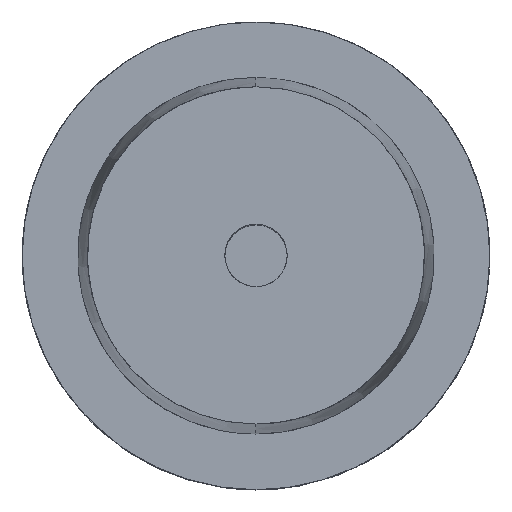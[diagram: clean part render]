
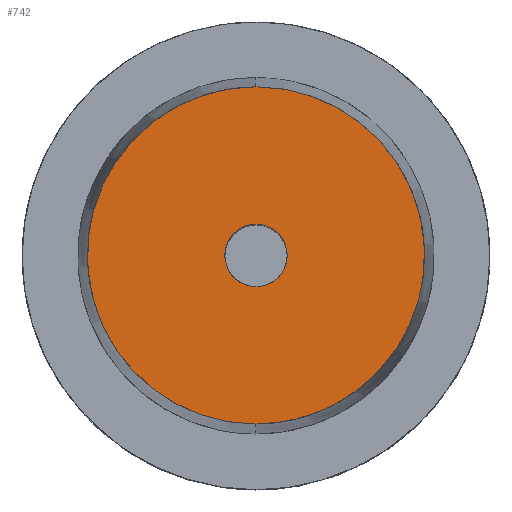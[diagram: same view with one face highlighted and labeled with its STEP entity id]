
A CAD part, top view. The second image highlights one B-rep face of the part: STEP entity #742.
In plain terms, the highlighted planar face has unit normal (0, 0, -1).
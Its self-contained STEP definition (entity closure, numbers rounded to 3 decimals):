
#742 = ADVANCED_FACE('',(#743,#790),#759,.T.);
#743 = FACE_BOUND('',#744,.T.);
#744 = EDGE_LOOP('',(#745,#772));
#745 = ORIENTED_EDGE('',*,*,#746,.T.);
#746 = EDGE_CURVE('',#747,#749,#751,.T.);
#747 = VERTEX_POINT('',#748);
#748 = CARTESIAN_POINT('',(0.,22.717,32.));
#749 = VERTEX_POINT('',#750);
#750 = CARTESIAN_POINT('',(0.,-22.717,32.));
#751 = SURFACE_CURVE('',#752,(#758),.PCURVE_S1.);
#752 = ( BOUNDED_CURVE() B_SPLINE_CURVE(2,(#753,#754,#755,#756,#757),
.UNSPECIFIED.,.F.,.F.) B_SPLINE_CURVE_WITH_KNOTS((3,2,3),(0.,0.5,1.),
.PIECEWISE_BEZIER_KNOTS.) CURVE() GEOMETRIC_REPRESENTATION_ITEM() 
RATIONAL_B_SPLINE_CURVE((1.,0.707,1.,0.707,1.)) 
REPRESENTATION_ITEM('') );
#753 = CARTESIAN_POINT('',(0.,22.717,32.));
#754 = CARTESIAN_POINT('',(22.717,22.717,32.));
#755 = CARTESIAN_POINT('',(22.717,0.,32.));
#756 = CARTESIAN_POINT('',(22.717,-22.717,32.));
#757 = CARTESIAN_POINT('',(0.,-22.717,32.));
#758 = PCURVE('',#759,#764);
#759 = PLANE('',#760);
#760 = AXIS2_PLACEMENT_3D('',#761,#762,#763);
#761 = CARTESIAN_POINT('',(0.,0.,32.));
#762 = DIRECTION('',(0.,0.,-1.));
#763 = DIRECTION('',(0.,1.,0.));
#764 = DEFINITIONAL_REPRESENTATION('',(#765),#771);
#765 = ( BOUNDED_CURVE() B_SPLINE_CURVE(2,(#766,#767,#768,#769,#770),
.UNSPECIFIED.,.F.,.F.) B_SPLINE_CURVE_WITH_KNOTS((3,2,3),(0.,0.5,1.),
.PIECEWISE_BEZIER_KNOTS.) CURVE() GEOMETRIC_REPRESENTATION_ITEM() 
RATIONAL_B_SPLINE_CURVE((1.,0.707,1.,0.707,1.)) 
REPRESENTATION_ITEM('') );
#766 = CARTESIAN_POINT('',(22.717,0.));
#767 = CARTESIAN_POINT('',(22.717,22.717));
#768 = CARTESIAN_POINT('',(0.,22.717));
#769 = CARTESIAN_POINT('',(-22.717,22.717));
#770 = CARTESIAN_POINT('',(-22.717,0.));
#771 = ( GEOMETRIC_REPRESENTATION_CONTEXT(2) 
PARAMETRIC_REPRESENTATION_CONTEXT() REPRESENTATION_CONTEXT('2D SPACE',''
  ) );
#772 = ORIENTED_EDGE('',*,*,#773,.T.);
#773 = EDGE_CURVE('',#749,#747,#774,.T.);
#774 = SURFACE_CURVE('',#775,(#781),.PCURVE_S1.);
#775 = ( BOUNDED_CURVE() B_SPLINE_CURVE(2,(#776,#777,#778,#779,#780),
.UNSPECIFIED.,.F.,.F.) B_SPLINE_CURVE_WITH_KNOTS((3,2,3),(0.,0.5,1.),
.PIECEWISE_BEZIER_KNOTS.) CURVE() GEOMETRIC_REPRESENTATION_ITEM() 
RATIONAL_B_SPLINE_CURVE((1.,0.707,1.,0.707,1.)) 
REPRESENTATION_ITEM('') );
#776 = CARTESIAN_POINT('',(0.,-22.717,32.));
#777 = CARTESIAN_POINT('',(-22.717,-22.717,32.));
#778 = CARTESIAN_POINT('',(-22.717,0.,32.));
#779 = CARTESIAN_POINT('',(-22.717,22.717,32.));
#780 = CARTESIAN_POINT('',(0.,22.717,32.));
#781 = PCURVE('',#759,#782);
#782 = DEFINITIONAL_REPRESENTATION('',(#783),#789);
#783 = ( BOUNDED_CURVE() B_SPLINE_CURVE(2,(#784,#785,#786,#787,#788),
.UNSPECIFIED.,.F.,.F.) B_SPLINE_CURVE_WITH_KNOTS((3,2,3),(0.,0.5,1.),
.PIECEWISE_BEZIER_KNOTS.) CURVE() GEOMETRIC_REPRESENTATION_ITEM() 
RATIONAL_B_SPLINE_CURVE((1.,0.707,1.,0.707,1.)) 
REPRESENTATION_ITEM('') );
#784 = CARTESIAN_POINT('',(-22.717,0.));
#785 = CARTESIAN_POINT('',(-22.717,-22.717));
#786 = CARTESIAN_POINT('',(0.,-22.717));
#787 = CARTESIAN_POINT('',(22.717,-22.717));
#788 = CARTESIAN_POINT('',(22.717,0.));
#789 = ( GEOMETRIC_REPRESENTATION_CONTEXT(2) 
PARAMETRIC_REPRESENTATION_CONTEXT() REPRESENTATION_CONTEXT('2D SPACE',''
  ) );
#790 = FACE_BOUND('',#791,.T.);
#791 = EDGE_LOOP('',(#792,#814));
#792 = ORIENTED_EDGE('',*,*,#793,.T.);
#793 = EDGE_CURVE('',#794,#796,#798,.T.);
#794 = VERTEX_POINT('',#795);
#795 = CARTESIAN_POINT('',(0.,4.2,32.));
#796 = VERTEX_POINT('',#797);
#797 = CARTESIAN_POINT('',(0.,-4.2,32.));
#798 = SURFACE_CURVE('',#799,(#805),.PCURVE_S1.);
#799 = ( BOUNDED_CURVE() B_SPLINE_CURVE(2,(#800,#801,#802,#803,#804),
.UNSPECIFIED.,.F.,.F.) B_SPLINE_CURVE_WITH_KNOTS((3,2,3),(0.,0.5,1.),
.PIECEWISE_BEZIER_KNOTS.) CURVE() GEOMETRIC_REPRESENTATION_ITEM() 
RATIONAL_B_SPLINE_CURVE((1.,0.707,1.,0.707,1.)) 
REPRESENTATION_ITEM('') );
#800 = CARTESIAN_POINT('',(0.,4.2,32.));
#801 = CARTESIAN_POINT('',(-4.2,4.2,32.));
#802 = CARTESIAN_POINT('',(-4.2,0.,32.));
#803 = CARTESIAN_POINT('',(-4.2,-4.2,32.));
#804 = CARTESIAN_POINT('',(0.,-4.2,32.));
#805 = PCURVE('',#759,#806);
#806 = DEFINITIONAL_REPRESENTATION('',(#807),#813);
#807 = ( BOUNDED_CURVE() B_SPLINE_CURVE(2,(#808,#809,#810,#811,#812),
.UNSPECIFIED.,.F.,.F.) B_SPLINE_CURVE_WITH_KNOTS((3,2,3),(0.,0.5,1.),
.PIECEWISE_BEZIER_KNOTS.) CURVE() GEOMETRIC_REPRESENTATION_ITEM() 
RATIONAL_B_SPLINE_CURVE((1.,0.707,1.,0.707,1.)) 
REPRESENTATION_ITEM('') );
#808 = CARTESIAN_POINT('',(4.2,0.));
#809 = CARTESIAN_POINT('',(4.2,-4.2));
#810 = CARTESIAN_POINT('',(0.,-4.2));
#811 = CARTESIAN_POINT('',(-4.2,-4.2));
#812 = CARTESIAN_POINT('',(-4.2,0.));
#813 = ( GEOMETRIC_REPRESENTATION_CONTEXT(2) 
PARAMETRIC_REPRESENTATION_CONTEXT() REPRESENTATION_CONTEXT('2D SPACE',''
  ) );
#814 = ORIENTED_EDGE('',*,*,#815,.T.);
#815 = EDGE_CURVE('',#796,#794,#816,.T.);
#816 = SURFACE_CURVE('',#817,(#823),.PCURVE_S1.);
#817 = ( BOUNDED_CURVE() B_SPLINE_CURVE(2,(#818,#819,#820,#821,#822),
.UNSPECIFIED.,.F.,.F.) B_SPLINE_CURVE_WITH_KNOTS((3,2,3),(0.,0.5,1.),
.PIECEWISE_BEZIER_KNOTS.) CURVE() GEOMETRIC_REPRESENTATION_ITEM() 
RATIONAL_B_SPLINE_CURVE((1.,0.707,1.,0.707,1.)) 
REPRESENTATION_ITEM('') );
#818 = CARTESIAN_POINT('',(0.,-4.2,32.));
#819 = CARTESIAN_POINT('',(4.2,-4.2,32.));
#820 = CARTESIAN_POINT('',(4.2,0.,32.));
#821 = CARTESIAN_POINT('',(4.2,4.2,32.));
#822 = CARTESIAN_POINT('',(0.,4.2,32.));
#823 = PCURVE('',#759,#824);
#824 = DEFINITIONAL_REPRESENTATION('',(#825),#831);
#825 = ( BOUNDED_CURVE() B_SPLINE_CURVE(2,(#826,#827,#828,#829,#830),
.UNSPECIFIED.,.F.,.F.) B_SPLINE_CURVE_WITH_KNOTS((3,2,3),(0.,0.5,1.),
.PIECEWISE_BEZIER_KNOTS.) CURVE() GEOMETRIC_REPRESENTATION_ITEM() 
RATIONAL_B_SPLINE_CURVE((1.,0.707,1.,0.707,1.)) 
REPRESENTATION_ITEM('') );
#826 = CARTESIAN_POINT('',(-4.2,0.));
#827 = CARTESIAN_POINT('',(-4.2,4.2));
#828 = CARTESIAN_POINT('',(0.,4.2));
#829 = CARTESIAN_POINT('',(4.2,4.2));
#830 = CARTESIAN_POINT('',(4.2,0.));
#831 = ( GEOMETRIC_REPRESENTATION_CONTEXT(2) 
PARAMETRIC_REPRESENTATION_CONTEXT() REPRESENTATION_CONTEXT('2D SPACE',''
  ) );
